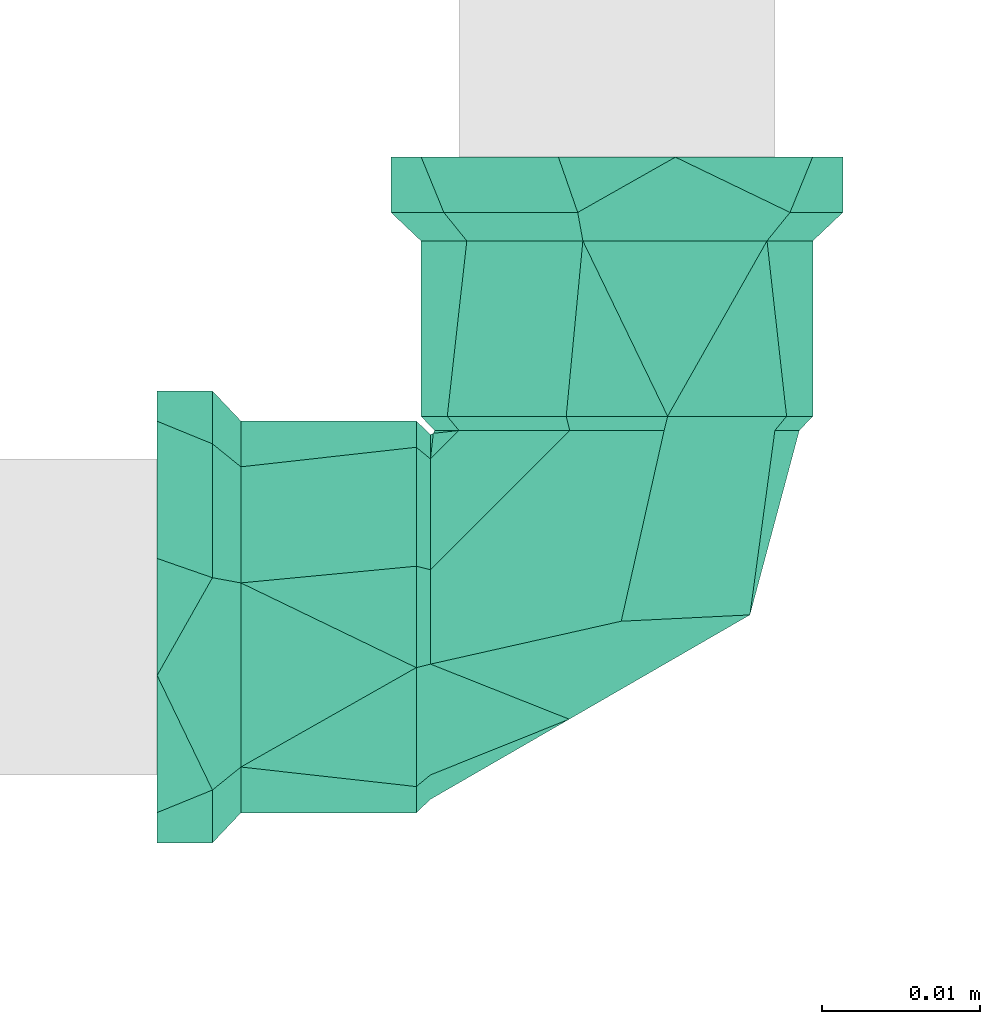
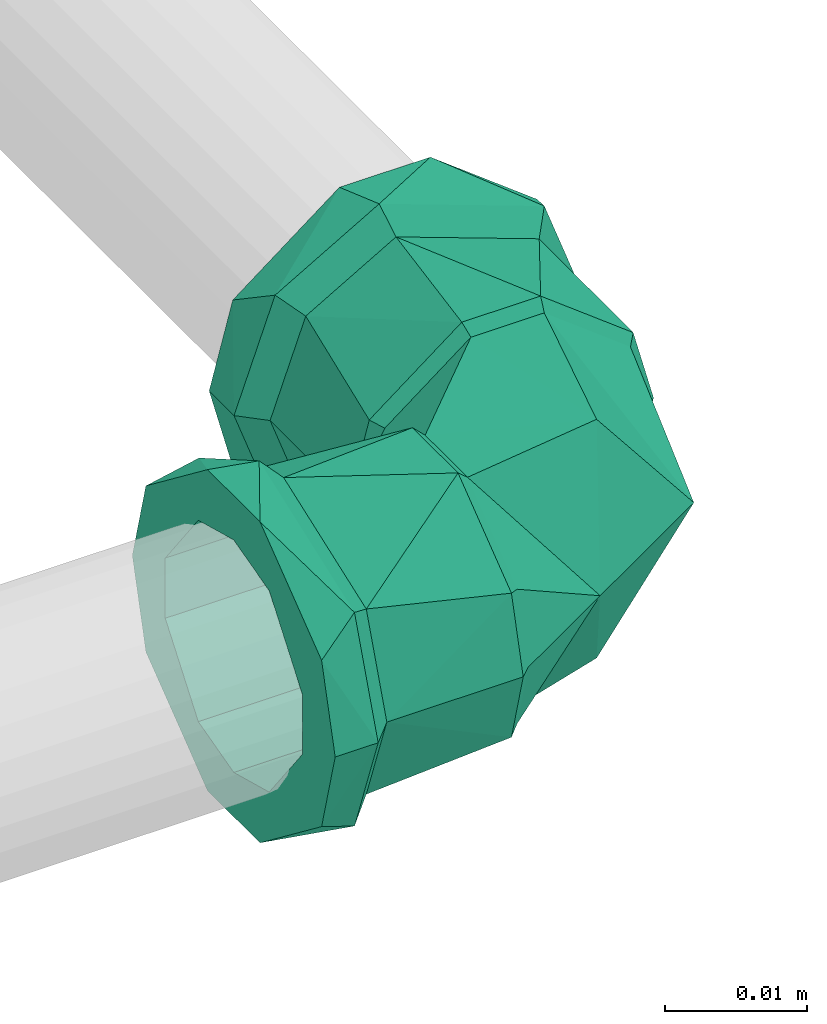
# One storey, part 312 of 589: 1 flow fitting.
"""IFC2X3 building model written with IfcOpenShell, lengths in millimetres."""

from ifc_helpers import new_model, entity, si_unit, converted_unit, derived_unit, direction, frame, origin, place, context, subcontext, project, spatial, faceted_brep, source, transform, mapped, material, type_object, type_shapes, element, save


model = new_model("IFC2X3")

# Units and contexts
model_context = context("Model", 3, precision=0.01, world=origin(), true_north=direction((6.123031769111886e-17, 1.0)))
body_context = subcontext(model_context, "Body", "Model", "MODEL_VIEW")
ifc_project = project(units=[si_unit("LENGTHUNIT", "METRE", prefix="MILLI"), si_unit("AREAUNIT", "SQUARE_METRE"), si_unit("VOLUMEUNIT", "CUBIC_METRE"), converted_unit("PLANEANGLEUNIT", "DEGREE", entity("IfcRatioMeasure", 0.017453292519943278), si_unit("PLANEANGLEUNIT", "RADIAN"), dimensions=[0, 0, 0, 0, 0, 0, 0]), si_unit("MASSUNIT", "GRAM", prefix="KILO"), derived_unit("MASSDENSITYUNIT", [(si_unit("MASSUNIT", "GRAM", prefix="KILO"), 1), (si_unit("LENGTHUNIT", "METRE"), -3)]), derived_unit("IONCONCENTRATIONUNIT", [(si_unit("MASSUNIT", "GRAM", prefix="KILO"), 1), (si_unit("LENGTHUNIT", "METRE"), -3)]), derived_unit("MOMENTOFINERTIAUNIT", [(si_unit("LENGTHUNIT", "METRE"), 4)]), si_unit("TIMEUNIT", "SECOND"), si_unit("FREQUENCYUNIT", "HERTZ"), si_unit("THERMODYNAMICTEMPERATUREUNIT", "DEGREE_CELSIUS"), derived_unit("THERMALTRANSMITTANCEUNIT", [(si_unit("MASSUNIT", "GRAM", prefix="KILO"), 1), (si_unit("THERMODYNAMICTEMPERATUREUNIT", "KELVIN"), -1), (si_unit("TIMEUNIT", "SECOND"), -3)]), derived_unit("THERMALCONDUCTANCEUNIT", [(si_unit("MASSUNIT", "GRAM", prefix="KILO"), 1), (si_unit("THERMODYNAMICTEMPERATUREUNIT", "KELVIN"), -1), (si_unit("TIMEUNIT", "SECOND"), -3), (si_unit("LENGTHUNIT", "METRE"), 1)]), derived_unit("VOLUMETRICFLOWRATEUNIT", [(si_unit("LENGTHUNIT", "METRE"), 3), (si_unit("TIMEUNIT", "SECOND"), -1)]), derived_unit("MASSFLOWRATEUNIT", [(si_unit("MASSUNIT", "GRAM", prefix="KILO"), 1), (si_unit("TIMEUNIT", "SECOND"), -1)]), derived_unit("ROTATIONALFREQUENCYUNIT", [(si_unit("TIMEUNIT", "SECOND"), -1)]), si_unit("ELECTRICCURRENTUNIT", "AMPERE"), si_unit("ELECTRICVOLTAGEUNIT", "VOLT"), si_unit("POWERUNIT", "WATT"), si_unit("FORCEUNIT", "NEWTON", prefix="KILO"), si_unit("ILLUMINANCEUNIT", "LUX"), si_unit("LUMINOUSFLUXUNIT", "LUMEN"), si_unit("LUMINOUSINTENSITYUNIT", "CANDELA"), derived_unit("USERDEFINED", [(si_unit("MASSUNIT", "GRAM", prefix="KILO"), -1), (si_unit("LENGTHUNIT", "METRE"), -2), (si_unit("TIMEUNIT", "SECOND"), 3), (si_unit("LUMINOUSFLUXUNIT", "LUMEN"), 1)]), derived_unit("USERDEFINED", [(si_unit("MASSUNIT", "GRAM", prefix="KILO"), 1), (si_unit("TIMEUNIT", "SECOND"), -3), (si_unit("LENGTHUNIT", "METRE"), 3), (si_unit("ELECTRICCURRENTUNIT", "AMPERE"), -2)]), derived_unit("SOUNDPOWERUNIT", [(si_unit("MASSUNIT", "GRAM", prefix="KILO"), 1), (si_unit("TIMEUNIT", "SECOND"), -3), (si_unit("LENGTHUNIT", "METRE"), 2)]), derived_unit("SOUNDPRESSUREUNIT", [(si_unit("MASSUNIT", "GRAM", prefix="KILO"), 1), (si_unit("LENGTHUNIT", "METRE"), -1), (si_unit("TIMEUNIT", "SECOND"), -2)]), derived_unit("LINEARVELOCITYUNIT", [(si_unit("LENGTHUNIT", "METRE"), 1), (si_unit("TIMEUNIT", "SECOND"), -1)]), si_unit("PRESSUREUNIT", "PASCAL"), derived_unit("USERDEFINED", [(si_unit("MASSUNIT", "GRAM", prefix="KILO"), 1), (si_unit("LENGTHUNIT", "METRE"), -2), (si_unit("TIMEUNIT", "SECOND"), -2)]), derived_unit("LINEARFORCEUNIT", [(si_unit("MASSUNIT", "GRAM", prefix="KILO"), 1), (si_unit("TIMEUNIT", "SECOND"), -2)]), derived_unit("PLANARFORCEUNIT", [(si_unit("MASSUNIT", "GRAM", prefix="KILO"), 1), (si_unit("LENGTHUNIT", "METRE"), -1), (si_unit("TIMEUNIT", "SECOND"), -2)]), derived_unit("SPECIFICHEATCAPACITYUNIT", [(si_unit("THERMODYNAMICTEMPERATUREUNIT", "KELVIN"), -1), (si_unit("LENGTHUNIT", "METRE"), 2), (si_unit("TIMEUNIT", "SECOND"), -2)]), derived_unit("HEATINGVALUEUNIT", [(si_unit("LENGTHUNIT", "METRE"), 2), (si_unit("TIMEUNIT", "SECOND"), -2)]), derived_unit("VAPORPERMEABILITYUNIT", [(si_unit("LENGTHUNIT", "METRE"), -1), (si_unit("TIMEUNIT", "SECOND"), 1)]), derived_unit("DYNAMICVISCOSITYUNIT", [(si_unit("MASSUNIT", "GRAM", prefix="KILO"), 1), (si_unit("TIMEUNIT", "SECOND"), -1), (si_unit("LENGTHUNIT", "METRE"), -1)]), derived_unit("THERMALEXPANSIONCOEFFICIENTUNIT", [(si_unit("THERMODYNAMICTEMPERATUREUNIT", "KELVIN"), -1)]), derived_unit("MODULUSOFELASTICITYUNIT", [(si_unit("MASSUNIT", "GRAM", prefix="KILO"), 1), (si_unit("LENGTHUNIT", "METRE"), -1), (si_unit("TIMEUNIT", "SECOND"), -2)]), derived_unit("ISOTHERMALMOISTURECAPACITYUNIT", [(si_unit("LENGTHUNIT", "METRE"), 3), (si_unit("MASSUNIT", "GRAM", prefix="KILO"), -1)]), derived_unit("MOISTUREDIFFUSIVITYUNIT", [(si_unit("TIMEUNIT", "SECOND"), -1), (si_unit("LENGTHUNIT", "METRE"), 2)])], contexts=[model_context])

# Site, building, storey
site_placement = place(None, origin())
site = spatial("IfcSite", under=ifc_project, at=site_placement, Name="Default", CompositionType="ELEMENT")
building_placement = place(site_placement, origin())
building = spatial("IfcBuilding", under=site, at=building_placement, CompositionType="ELEMENT")
storey_placement = place(building_placement, frame((0.0, 0.0, 100.0)))
storey = spatial("IfcBuildingStorey", under=building, at=storey_placement, Name="TÉRREO", CompositionType="ELEMENT", Elevation=100.0)

# Flow fitting
ifc_material = material(Name="PVC Marrom")
pipe_fitting_type = type_object("IfcPipeFittingType", Name="PVC Marrom Soldável_Joelho 45°_90°_Rodrigo MEP:Joelho", PredefinedType="NOTDEFINED", material=ifc_material)
shared_shape = source(origin(), body_context, "Body", "Brep", [
    faceted_brep([(3.2093561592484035, 12.700000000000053, 11.977480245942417), (10.73871500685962, 12.700000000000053, 6.199999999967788), (12.399999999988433, 12.700000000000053, 0.0), (10.738715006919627, 12.700000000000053, -6.200000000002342), (3.209356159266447, 12.700000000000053, -11.977480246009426), (-3.209356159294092, 12.700000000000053, -11.977480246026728), (-10.738715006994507, 12.700000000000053, -6.200000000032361), (-12.400000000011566, 12.700000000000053, 0.0), (-10.738715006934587, 12.700000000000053, 6.19999999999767), (-3.209356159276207, 12.700000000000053, 11.977480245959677), (-2.9880658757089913, 11.799999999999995, 11.151613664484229), (-9.998263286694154, 11.799999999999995, 5.772499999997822), (-11.545000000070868, 11.799999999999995, 0.0), (-9.998263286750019, 11.799999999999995, -5.772500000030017), (-2.9880658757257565, 11.799999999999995, -11.151613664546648), (2.9880658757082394, 11.799999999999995, -11.151613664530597), (9.998263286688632, 11.799999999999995, -5.77250000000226), (11.544999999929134, 11.799999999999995, 0.0), (9.998263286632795, 11.799999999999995, 5.7724999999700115), (2.9880658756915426, 11.799999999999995, 11.15161366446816)], [[[0, 1, 2, 3, 4, 5, 6, 7, 8, 9]], [[10, 11, 12, 13, 14, 15, 16, 17, 18, 19]], [[3, 17, 16]], [[4, 3, 16, 15]], [[3, 2, 17]], [[15, 14, 5, 4]], [[6, 5, 14, 13]], [[7, 13, 12]], [[7, 6, 13]], [[8, 12, 11]], [[9, 8, 11, 10]], [[8, 7, 12]], [[10, 19, 0, 9]], [[1, 0, 19, 18]], [[2, 18, 17]], [[2, 1, 18]]]),
    faceted_brep([(-12.699999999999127, 12.4, 0.0), (-12.699999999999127, 10.738715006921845, -6.199999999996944), (-12.699999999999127, 3.2093561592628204, -11.977480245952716), (-12.699999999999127, -3.2093561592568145, -11.977480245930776), (-12.699999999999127, -10.73871500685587, -6.199999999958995), (-12.699999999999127, -12.4, 0.0), (-12.699999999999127, -10.738715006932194, 6.200000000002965), (-12.699999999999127, -3.2093561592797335, 11.977480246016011), (-12.699999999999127, 3.20935615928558, 11.977480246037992), (-12.699999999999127, 10.738715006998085, 6.200000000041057), (-11.799999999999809, -9.998263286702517, 5.772500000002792), (-11.799999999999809, -11.54499999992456, 0.0), (-11.799999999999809, -9.998263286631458, -5.772499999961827), (-11.799999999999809, -2.9880658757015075, -11.151613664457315), (-11.799999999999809, 2.9880658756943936, -11.151613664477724), (-11.799999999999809, 9.998263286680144, -5.772499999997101), (-11.799999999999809, 11.54500000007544, 0.0), (-11.799999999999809, 9.998263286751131, 5.772500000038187), (-11.799999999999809, 2.988065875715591, 11.151613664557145), (-11.799999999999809, -2.9880658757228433, 11.151613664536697)], [[[0, 1, 2, 3, 4, 5, 6, 7, 8, 9]], [[10, 11, 12, 13, 14, 15, 16, 17, 18, 19]], [[1, 16, 15]], [[2, 1, 15, 14]], [[1, 0, 16]], [[14, 13, 3, 2]], [[4, 3, 13, 12]], [[5, 12, 11]], [[5, 4, 12]], [[6, 11, 10]], [[7, 6, 10, 19]], [[6, 5, 11]], [[19, 18, 8, 7]], [[9, 8, 18, 17]], [[0, 17, 16]], [[0, 9, 17]]]),
    faceted_brep([(-29.099999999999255, -3.7011123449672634, -13.812739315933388), (-29.099999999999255, -5.0, -8.660254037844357), (-29.099999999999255, 0.0, -10.0), (-29.099999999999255, -12.384163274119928, -7.149999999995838), (-29.099999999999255, 3.7011123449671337, -13.812739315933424), (-29.099999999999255, -9.659258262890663, -2.5881904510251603), (-29.099999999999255, -14.29999999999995, 0.0), (-29.099999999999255, -9.65925826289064, 2.5881904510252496), (-29.099999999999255, -12.384163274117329, 7.1500000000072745), (-29.099999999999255, -5.0, 8.660254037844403), (-29.099999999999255, -3.70111234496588, 13.8127393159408), (-29.099999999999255, 0.0, 10.0), (-29.099999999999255, 3.701112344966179, 13.812739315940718), (-29.099999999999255, 5.0, 8.660254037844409), (-29.099999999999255, 12.384163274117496, 7.15000000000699), (-29.099999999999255, 9.6592582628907, 2.588190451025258), (-29.099999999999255, 14.300000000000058, 0.0), (-29.099999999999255, 9.659258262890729, -2.5881904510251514), (-29.099999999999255, 12.384163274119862, -7.1499999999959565), (-29.099999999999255, 5.0, -8.660254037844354), (-25.599999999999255, 14.29999999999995, 0.0), (-25.599999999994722, 10.953923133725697, 9.19247344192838), (-25.599999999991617, 2.4815988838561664, 14.083027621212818), (-25.59999999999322, -10.956228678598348, 9.18972541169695), (-25.599999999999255, -14.29999999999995, 0.0), (-25.600000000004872, -10.956228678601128, -9.189725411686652), (-25.600000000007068, -2.4851314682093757, -14.082404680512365), (-25.600000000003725, 10.953923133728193, -9.192473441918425), (-23.799999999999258, -12.399999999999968, 0.0), (-23.79999999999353, -9.500505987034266, 7.968712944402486), (-23.799999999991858, 2.151875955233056, 12.211856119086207), (-23.799999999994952, 9.49850677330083, 7.971095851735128), (-23.799999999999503, 12.399999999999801, 0.0), (-23.799999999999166, 9.498506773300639, -7.971095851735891), (-23.799999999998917, -2.1549391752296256, -12.211315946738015), (-23.7999999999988, -9.500505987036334, -7.968712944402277), (-12.699999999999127, 0.0, -10.0), (-12.699999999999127, -5.0, -8.660254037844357), (-12.699999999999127, -3.209356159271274, -11.977480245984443), (-12.699999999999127, 3.2093561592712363, -11.977480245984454), (-12.699999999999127, 5.0, -8.660254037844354), (-12.699999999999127, -10.738715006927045, -6.199999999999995), (-12.699999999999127, -9.659258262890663, -2.5881904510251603), (-12.699999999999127, -12.400000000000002, 0.0), (-12.699999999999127, -9.65925826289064, 2.5881904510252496), (-12.699999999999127, -10.738715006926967, 6.200000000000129), (-12.699999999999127, -5.0, 8.660254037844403), (-12.699999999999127, -3.209356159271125, 11.977480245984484), (-12.699999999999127, 0.0, 10.0), (-12.699999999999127, 3.209356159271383, 11.977480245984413), (-12.699999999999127, 5.0, 8.660254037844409), (-12.699999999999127, 10.738715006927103, 6.199999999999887), (-12.699999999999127, 9.6592582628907, 2.588190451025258), (-12.699999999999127, 12.399999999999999, 0.0), (-12.699999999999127, 9.659258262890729, -2.5881904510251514), (-12.699999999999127, 10.738715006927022, -6.200000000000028)], [[[0, 1, 2]], [[1, 0, 3]], [[2, 4, 0]], [[3, 5, 1]], [[3, 6, 5]], [[5, 6, 7]], [[8, 7, 6]], [[7, 8, 9]], [[10, 9, 8]], [[9, 10, 11]], [[11, 10, 12]], [[12, 13, 11]], [[14, 13, 12]], [[13, 14, 15]], [[16, 15, 14]], [[16, 17, 15]], [[18, 17, 16]], [[19, 17, 18]], [[19, 18, 4]], [[4, 2, 19]], [[16, 14, 20]], [[14, 21, 20]], [[21, 14, 12]], [[21, 12, 22]], [[23, 10, 8]], [[24, 8, 6]], [[10, 23, 22]], [[23, 8, 24]], [[10, 22, 12]], [[6, 3, 24]], [[3, 25, 24]], [[25, 3, 0]], [[25, 0, 26]], [[27, 4, 18]], [[20, 18, 16]], [[27, 26, 4]], [[20, 27, 18]], [[4, 26, 0]], [[28, 29, 23, 24]], [[23, 29, 30, 22]], [[31, 32, 20, 21]], [[31, 21, 22, 30]], [[32, 33, 27, 20]], [[27, 33, 34, 26]], [[35, 28, 24, 25]], [[35, 25, 26, 34]], [[36, 37, 38]], [[38, 39, 36]], [[40, 36, 39]], [[41, 38, 37]], [[37, 42, 41]], [[42, 43, 41]], [[44, 43, 42]], [[43, 44, 45]], [[46, 45, 44]], [[45, 46, 47]], [[48, 47, 46]], [[49, 47, 48]], [[48, 50, 49]], [[49, 50, 51]], [[52, 51, 50]], [[51, 52, 53]], [[52, 54, 53]], [[55, 54, 40]], [[53, 54, 55]], [[39, 55, 40]], [[32, 31, 51]], [[32, 51, 53]], [[51, 31, 49]], [[31, 30, 49]], [[47, 30, 29]], [[45, 29, 28]], [[29, 45, 47]], [[45, 28, 43]], [[30, 47, 49]], [[28, 35, 41]], [[28, 41, 43]], [[41, 35, 38]], [[35, 34, 38]], [[39, 34, 33]], [[55, 33, 32]], [[33, 55, 39]], [[55, 32, 53]], [[34, 39, 38]], [[9, 11, 48, 46]], [[7, 9, 46, 44]], [[44, 42, 5, 7]], [[1, 5, 42, 37]], [[2, 1, 37, 36]], [[19, 2, 36, 40]], [[17, 19, 40, 54]], [[54, 52, 15, 17]], [[13, 15, 52, 50]], [[11, 13, 50, 48]]]),
    faceted_brep([(-11.79999999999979, 2.9880658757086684, -11.15161366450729), (-11.799999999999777, -2.988065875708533, -11.1516136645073), (-11.799999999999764, -9.998263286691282, -5.772500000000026), (-11.799999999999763, -11.544999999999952, 0.0), (-11.799999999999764, -9.998263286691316, 5.772499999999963), (-11.799999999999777, -2.988065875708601, 11.15161366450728), (-11.79999999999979, 2.9880658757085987, 11.151613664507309), (-11.799999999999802, 9.998263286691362, 5.7725000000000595), (-11.799999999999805, 11.545000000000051, 0.0), (-11.799999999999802, 9.9982632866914, -5.7724999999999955), (9.998263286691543, 11.79999999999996, 5.772499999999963), (11.545000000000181, 11.799999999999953, 0.0), (9.99826328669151, 11.79999999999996, -5.772500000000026), (2.9880658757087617, 11.79999999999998, -11.1516136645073), (-2.98806587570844, 11.8, -11.15161366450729), (-9.998263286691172, 11.800000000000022, -5.7724999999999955), (-11.544999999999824, 11.80000000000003, 0.0), (-9.998263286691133, 11.800000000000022, 5.7725000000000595), (-2.98806587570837, 11.8, 11.151613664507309), (2.988065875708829, 11.79999999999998, 11.15161366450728), (0.2725483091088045, -0.2725494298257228, 10.270383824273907), (-3.0173304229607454, -6.474323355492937, 0.0), (-11.619687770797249, 11.619687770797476, 0.0), (8.417363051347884, 0.12750000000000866, 0.0), (0.27254830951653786, -0.27254942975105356, -10.270383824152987)], [[[0, 1, 2, 3, 4, 5, 6, 7, 8, 9]], [[10, 11, 12, 13, 14, 15, 16, 17, 18, 19]], [[5, 20, 6]], [[21, 5, 4]], [[4, 3, 21]], [[22, 7, 17]], [[22, 8, 7]], [[17, 7, 6, 18]], [[23, 19, 20]], [[23, 20, 21]], [[23, 11, 10]], [[23, 10, 19]], [[22, 17, 16]], [[21, 20, 5]], [[20, 18, 6]], [[19, 18, 20]], [[9, 8, 22]], [[13, 23, 24]], [[0, 9, 15, 14]], [[1, 24, 21]], [[0, 14, 24]], [[2, 21, 3]], [[9, 22, 15]], [[1, 21, 2]], [[13, 24, 14]], [[23, 13, 12]], [[0, 24, 1]], [[12, 11, 23]], [[21, 24, 23]], [[15, 22, 16]]]),
    faceted_brep([(0.0, 12.700000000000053, -10.0), (-5.0, 12.700000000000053, -8.660254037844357), (-3.20935615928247, 12.700000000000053, -11.977480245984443), (3.2093561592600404, 12.700000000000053, -11.977480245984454), (5.0, 12.700000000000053, -8.660254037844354), (-10.73871500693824, 12.700000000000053, -6.199999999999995), (-9.659258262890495, 12.700000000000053, -2.5881904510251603), (-12.400000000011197, 12.700000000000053, 0.0), (-9.65925826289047, 12.700000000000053, 2.5881904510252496), (-10.738715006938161, 12.700000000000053, 6.200000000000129), (-5.0, 12.700000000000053, 8.660254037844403), (-3.2093561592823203, 12.700000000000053, 11.977480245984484), (0.0, 12.700000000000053, 10.0), (3.209356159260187, 12.700000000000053, 11.977480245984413), (5.0, 12.700000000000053, 8.660254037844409), (10.738715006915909, 12.700000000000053, 6.199999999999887), (9.65925826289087, 12.700000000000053, 2.588190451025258), (12.399999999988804, 12.700000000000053, 0.0), (9.659258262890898, 12.700000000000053, -2.5881904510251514), (10.738715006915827, 12.700000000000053, -6.200000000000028), (12.399999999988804, 23.800000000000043, 0.0), (9.498506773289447, 23.79999999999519, 7.971095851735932), (-2.1549391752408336, 23.799999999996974, 12.211315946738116), (-9.500505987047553, 23.80000000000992, 7.9687129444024), (-12.400000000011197, 23.800000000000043, 0.0), (-9.500505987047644, 23.799999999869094, -7.968712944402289), (2.1518759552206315, 23.7999999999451, -12.211856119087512), (9.49850677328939, 23.79999999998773, -7.971095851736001), (-10.953923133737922, 25.60000000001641, 9.192473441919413), (-14.300000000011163, 25.600000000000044, 0.0), (-2.481598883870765, 25.60000000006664, 14.083027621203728), (10.956228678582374, 25.600000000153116, 9.189725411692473), (14.299999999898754, 25.600000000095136, 0.0), (10.95622867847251, 25.59999999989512, -9.189725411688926), (2.485131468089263, 25.599999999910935, -14.082404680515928), (-10.953923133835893, 25.599999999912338, -9.192473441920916), (-3.701112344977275, 29.100000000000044, -13.812739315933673), (-5.0, 29.100000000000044, -8.660254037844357), (0.0, 29.100000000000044, -10.0), (-12.384163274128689, 29.100000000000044, -7.149999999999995), (3.7011123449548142, 29.100000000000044, -13.812739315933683), (-9.659258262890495, 29.100000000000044, -2.5881904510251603), (-14.300000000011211, 29.100000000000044, 0.0), (-9.65925826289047, 29.100000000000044, 2.5881904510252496), (-12.384163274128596, 29.100000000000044, 7.1500000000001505), (-5.0, 29.100000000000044, 8.660254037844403), (-3.7011123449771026, 29.100000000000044, 13.81273931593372), (0.0, 29.100000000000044, 10.0), (3.7011123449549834, 29.100000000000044, 13.812739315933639), (5.0, 29.100000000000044, 8.660254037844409), (12.38416327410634, 29.100000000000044, 7.149999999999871), (9.65925826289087, 29.100000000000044, 2.588190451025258), (14.299999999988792, 29.100000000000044, 0.0), (9.659258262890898, 29.100000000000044, -2.5881904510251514), (12.384163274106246, 29.100000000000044, -7.150000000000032), (5.0, 29.100000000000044, -8.660254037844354)], [[[0, 1, 2]], [[2, 3, 0]], [[4, 0, 3]], [[5, 2, 1]], [[1, 6, 5]], [[6, 7, 5]], [[8, 7, 6]], [[7, 8, 9]], [[10, 9, 8]], [[9, 10, 11]], [[12, 11, 10]], [[13, 11, 12]], [[12, 14, 13]], [[13, 14, 15]], [[16, 15, 14]], [[15, 16, 17]], [[16, 18, 17]], [[19, 18, 4]], [[17, 18, 19]], [[3, 19, 4]], [[20, 21, 15]], [[20, 15, 17]], [[15, 21, 13]], [[21, 22, 13]], [[11, 22, 23]], [[9, 23, 24]], [[23, 9, 11]], [[9, 24, 7]], [[22, 11, 13]], [[24, 25, 5]], [[24, 5, 7]], [[5, 25, 2]], [[25, 26, 2]], [[3, 26, 27]], [[19, 27, 20]], [[27, 19, 3]], [[19, 20, 17]], [[26, 3, 2]], [[23, 22, 28]], [[24, 23, 29]], [[29, 23, 28]], [[22, 30, 28]], [[21, 20, 31]], [[31, 30, 21]], [[32, 31, 20]], [[21, 30, 22]], [[20, 27, 33]], [[33, 32, 20]], [[34, 33, 27]], [[27, 26, 34]], [[25, 24, 29]], [[25, 35, 26]], [[35, 25, 29]], [[26, 35, 34]], [[36, 37, 38]], [[37, 36, 39]], [[38, 40, 36]], [[39, 41, 37]], [[39, 42, 41]], [[41, 42, 43]], [[44, 43, 42]], [[43, 44, 45]], [[46, 45, 44]], [[45, 46, 47]], [[47, 46, 48]], [[48, 49, 47]], [[50, 49, 48]], [[49, 50, 51]], [[52, 51, 50]], [[52, 53, 51]], [[54, 53, 52]], [[55, 53, 54]], [[55, 54, 40]], [[40, 38, 55]], [[52, 50, 32]], [[50, 31, 32]], [[31, 50, 48]], [[31, 48, 30]], [[28, 46, 44]], [[29, 44, 42]], [[46, 28, 30]], [[28, 44, 29]], [[46, 30, 48]], [[42, 39, 29]], [[39, 35, 29]], [[35, 39, 36]], [[35, 36, 34]], [[33, 40, 54]], [[32, 54, 52]], [[40, 33, 34]], [[33, 54, 32]], [[40, 34, 36]], [[45, 47, 12, 10]], [[43, 45, 10, 8]], [[8, 6, 41, 43]], [[37, 41, 6, 1]], [[38, 37, 1, 0]], [[55, 38, 0, 4]], [[53, 55, 4, 18]], [[18, 16, 51, 53]], [[49, 51, 16, 14]], [[47, 49, 14, 12]]]),
])
type_shapes(pipe_fitting_type, [shared_shape])
flow_fitting_placement = place(storey_placement, frame((-3407.3955348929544, -7753.615281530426, -104.85493019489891)))
element("IfcFlowFitting", 1, at=flow_fitting_placement, inside=storey, type_object=pipe_fitting_type, material=ifc_material, Name="PVC Marrom Soldável_Joelho 45°_90°_Rodrigo MEP:Joelho", ObjectType="PVC Marrom Soldável_Joelho 45°_90°_Rodrigo MEP:Joelho", context=body_context, shape_type="MappedRepresentation", body=[
    mapped(shared_shape, transform((0.0, 0.0, 0.0), scale=1.0)),
])

save(model, "model.ifc")
